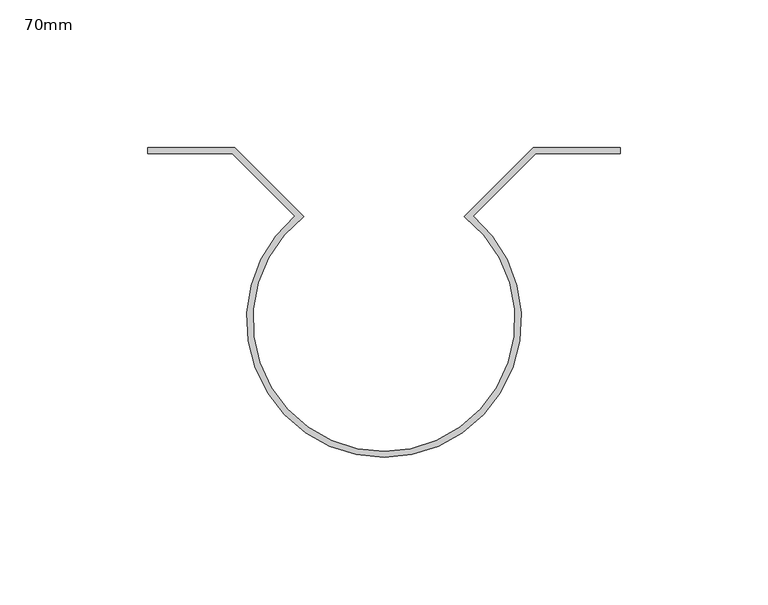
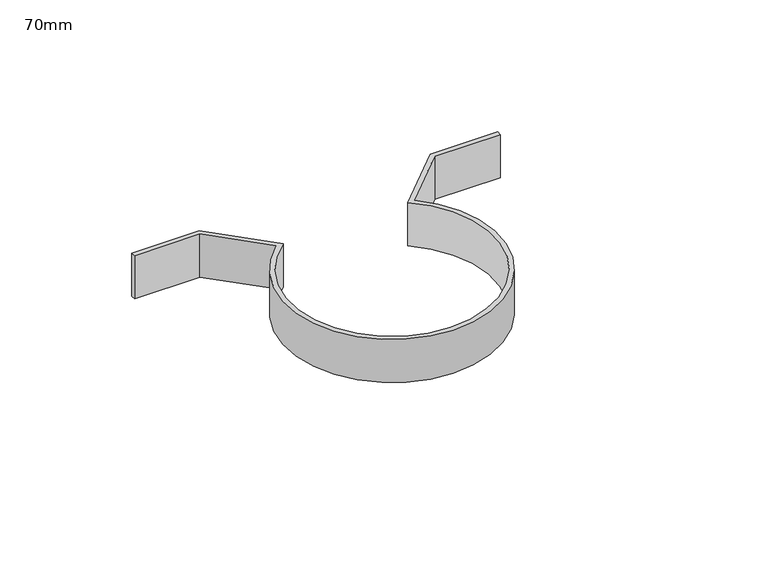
"""IFC4 building model written with IfcOpenShell, lengths in millimetres: pipe fitting geometry, AmancoWavin_Unionesdetubería_CanalesyBajantes_GazaBajanteRedondo : 70mm."""

import ifcopenshell
import ifcopenshell.guid

model = None  # the IFC model being written
_history = None  # IfcOwnerHistory: only IFC2X3 demands one
_inside = {}  # id of a spatial element -> (the spatial element, [elements in it])
_under = {}  # id of a project, library or spatial element -> (it, [spatial elements below it])
_declared = {}  # id of a project -> (the project, [libraries it declares])
_typed = {}  # id of a type object -> (the type object, [elements of that type])
_made_of = {}  # id of a material, layer set ... -> (it, [elements and type objects made of it])


def new_model(schema):
    """Start an empty IFC model of exactly this schema.

    Asked for "IFC4X3", IfcOpenShell would pick the latest addendum, in which some entities
    have other attributes; the version numbers below select the first issue.
    IFC2X3 requires an IfcOwnerHistory on every rooted entity: one is made here for all.
    """
    global model, _history
    if schema == "IFC4X3":
        model = ifcopenshell.file(schema_version=(4, 3, 0, 0))
    else:
        model = ifcopenshell.file(schema=schema)
    _inside.clear()
    _under.clear()
    _declared.clear()
    _typed.clear()
    _made_of.clear()
    _history = None
    if model.schema == "IFC2X3":
        org = make("IfcOrganization", Name="unknown")
        user = make(
            "IfcPersonAndOrganization",
            ThePerson=make("IfcPerson", FamilyName="unknown"),
            TheOrganization=org,
        )
        app = make(
            "IfcApplication",
            ApplicationDeveloper=org,
            Version="unknown",
            ApplicationFullName="unknown",
            ApplicationIdentifier="unknown",
        )
        _history = make(
            "IfcOwnerHistory",
            OwningUser=user,
            OwningApplication=app,
            ChangeAction="ADDED",
            CreationDate=0,
        )
    return model


def make(cls, **values):
    """One entity of the class cls with the attributes given. An attribute that is None is left unset."""
    return model.create_entity(
        cls, **{name: value for name, value in values.items() if value is not None}
    )


def rooted(cls, **values):
    """An entity with a GlobalId (a new one), such as an element, a storey or a relation."""
    return make(cls, GlobalId=ifcopenshell.guid.new(), OwnerHistory=_history, **values)


def si_unit(unit_type, name, prefix=None):
    """IfcSIUnit, for example si_unit("LENGTHUNIT", "METRE", prefix="MILLI")."""
    return make("IfcSIUnit", UnitType=unit_type, Prefix=prefix, Name=name)


def assignment(units):
    """IfcUnitAssignment: the units of a project."""
    return None if units is None else make("IfcUnitAssignment", Units=units)


def point(xyz):
    """IfcCartesianPoint."""
    return None if xyz is None else make("IfcCartesianPoint", Coordinates=xyz)


def direction(xyz):
    """IfcDirection."""
    return None if xyz is None else make("IfcDirection", DirectionRatios=xyz)


def frame(location, z_axis=None, x_axis=None):
    """IfcAxis2Placement3D, a coordinate frame: its origin and axes. An axis left out is left unset."""
    return make(
        "IfcAxis2Placement3D",
        Location=point(location),
        Axis=direction(z_axis),
        RefDirection=direction(x_axis),
    )


def frame_2d(location, x_axis=None):
    """IfcAxis2Placement2D, a coordinate frame in the plane: its origin and x axis."""
    return make(
        "IfcAxis2Placement2D", Location=point(location), RefDirection=direction(x_axis)
    )


def origin():
    """The frame at (0, 0, 0) with its axes left unset."""
    return frame((0.0, 0.0, 0.0))


def origin_with_axes():
    """The frame at (0, 0, 0) with the z axis (0, 0, 1) and the x axis (1, 0, 0) written out."""
    return frame((0.0, 0.0, 0.0), z_axis=(0.0, 0.0, 1.0), x_axis=(1.0, 0.0, 0.0))


def origin_2d():
    """The frame at (0, 0) in the plane with its x axis left unset."""
    return frame_2d((0.0, 0.0))


def place(relative_to, where):
    """IfcLocalPlacement: puts the frame where relative to a parent placement (None: the world)."""
    return make(
        "IfcLocalPlacement", PlacementRelTo=relative_to, RelativePlacement=where
    )


def context(
    kind, dimensions, precision=None, world=None, true_north=None, identifier=None
):
    """IfcGeometricRepresentationContext, for example the 3D "Model" context."""
    return make(
        "IfcGeometricRepresentationContext",
        ContextIdentifier=identifier,
        ContextType=kind,
        CoordinateSpaceDimension=dimensions,
        Precision=precision,
        WorldCoordinateSystem=world,
        TrueNorth=true_north,
    )


def project(units=None, contexts=None):
    """IfcProject with its units and contexts."""
    return rooted(
        "IfcProject",
        Name="project",
        RepresentationContexts=contexts,
        UnitsInContext=assignment(units),
    )


def spatial(cls, under=None, at=None, **own):
    """A site, building, storey or space (cls), placed at a placement, below another one or the project."""
    s = rooted(cls, ObjectPlacement=at, **own)
    if under is not None:
        _under.setdefault(under.id(), (under, []))[1].append(s)
    return s


def polyline(points):
    """IfcPolyline through the points."""
    return make("IfcPolyline", Points=[point(p) for p in points])


def circle_curve(where, radius):
    """IfcCircle in the frame where."""
    return make("IfcCircle", Position=where, Radius=radius)


def trimmed(basis, trim1, trim2, sense, master):
    """IfcTrimmedCurve: the piece of a basis curve between two trims."""
    return make(
        "IfcTrimmedCurve",
        BasisCurve=basis,
        Trim1=trim1,
        Trim2=trim2,
        SenseAgreement=sense,
        MasterRepresentation=master,
    )


def segment(curve, same_sense, transition):
    """IfcCompositeCurveSegment."""
    return make(
        "IfcCompositeCurveSegment",
        Transition=transition,
        SameSense=same_sense,
        ParentCurve=curve,
    )


def composite_curve(segments, self_intersect=None):
    """IfcCompositeCurve: segments joined end to end."""
    return make("IfcCompositeCurve", Segments=segments, SelfIntersect=self_intersect)


def outline(outer, holes=None, kind="AREA"):
    """IfcArbitraryClosedProfileDef: a profile drawn as a closed curve; with holes, ...WithVoids."""
    if holes is None:
        return make("IfcArbitraryClosedProfileDef", ProfileType=kind, OuterCurve=outer)
    return make(
        "IfcArbitraryProfileDefWithVoids",
        ProfileType=kind,
        OuterCurve=outer,
        InnerCurves=holes,
    )


def extrude(swept, where, along, depth):
    """IfcExtrudedAreaSolid: the profile swept, set in the frame where, extruded along a direction by depth."""
    return make(
        "IfcExtrudedAreaSolid",
        SweptArea=swept,
        Position=where,
        ExtrudedDirection=direction(along),
        Depth=depth,
    )


def shape(context_of_items, identifier, shape_type, items):
    """IfcShapeRepresentation: the items that make up one representation, for example the "Body"."""
    return make(
        "IfcShapeRepresentation",
        ContextOfItems=context_of_items,
        RepresentationIdentifier=identifier,
        RepresentationType=shape_type,
        Items=items,
    )


def source(mapping_origin, context_of_items, identifier, shape_type, items):
    """IfcRepresentationMap: a shape defined once, which mapped items show again and again."""
    return make(
        "IfcRepresentationMap",
        MappingOrigin=mapping_origin,
        MappedRepresentation=shape(context_of_items, identifier, shape_type, items),
    )


def transform(
    local_origin,
    x_axis=None,
    y_axis=None,
    z_axis=None,
    scale=None,
    scale2=None,
    scale3=None,
    uniform=True,
):
    """IfcCartesianTransformationOperator3D, or its non-uniform kind. x_axis, y_axis, z_axis: its Axis1, 2, 3."""
    if uniform:
        return make(
            "IfcCartesianTransformationOperator3D",
            Axis1=direction(x_axis),
            Axis2=direction(y_axis),
            LocalOrigin=point(local_origin),
            Scale=scale,
            Axis3=direction(z_axis),
        )
    return make(
        "IfcCartesianTransformationOperator3DnonUniform",
        Axis1=direction(x_axis),
        Axis2=direction(y_axis),
        LocalOrigin=point(local_origin),
        Scale=scale,
        Axis3=direction(z_axis),
        Scale2=scale2,
        Scale3=scale3,
    )


def mapped(mapping_source, mapping_target):
    """IfcMappedItem: shows the shape of a source again, moved by a transform."""
    return make(
        "IfcMappedItem", MappingSource=mapping_source, MappingTarget=mapping_target
    )


def made_of(thing, what):
    """Note that an element or type object is made of a material, layer set ...; save() writes the relation."""
    if what is not None:
        _made_of.setdefault(what.id(), (what, []))[1].append(thing)
    return thing


def element(
    cls,
    number,
    at=None,
    inside=None,
    cuts=None,
    type_object=None,
    material=None,
    context=None,
    identifier="Body",
    shape_type=None,
    held_by="IfcProductDefinitionShape",
    body=None,
    shapes=None,
    **own,
):
    """One element of the class cls, such as IfcWall. Its Tag is "e" and its number.

    at: its placement. inside: the storey or other place that contains it. cuts: it is an
    opening in that element (IfcRelVoidsElement). A single representation is given by context,
    identifier, shape_type and body (its items); several are given by shapes. held_by: the class
    of the entity that holds the representations. save() writes the other relations.
    """
    e = rooted(cls, Tag="e%d" % number, ObjectPlacement=at, **own)
    if body is not None:
        shapes = [shape(context, identifier, shape_type, body)]
    if shapes is not None:
        e.Representation = make(held_by, Representations=shapes)
    if inside is not None:
        _inside.setdefault(inside.id(), (inside, []))[1].append(e)
    if cuts is not None:
        rooted(
            "IfcRelVoidsElement", RelatingBuildingElement=cuts, RelatedOpeningElement=e
        )
    if type_object is not None:
        _typed.setdefault(type_object.id(), (type_object, []))[1].append(e)
    return made_of(e, material)


def aggregate(whole, parts):
    """IfcRelAggregates: a whole, such as a stair, and the parts it consists of."""
    return rooted("IfcRelAggregates", RelatingObject=whole, RelatedObjects=parts)


def save(model, path):
    """Write the relations noted so far, then the file.

    IfcRelAggregates (storeys below a building ...), IfcRelContainedInSpatialStructure (elements
    in a storey), IfcRelDefinesByType, IfcRelAssociatesMaterial and IfcRelDeclares: one each for
    every whole, place, type object, material and project.
    """
    for whole, parts in _under.values():
        aggregate(whole, parts)
    for where, things in _inside.values():
        rooted(
            "IfcRelContainedInSpatialStructure",
            RelatedElements=things,
            RelatingStructure=where,
        )
    for kind, things in _typed.values():
        rooted("IfcRelDefinesByType", RelatedObjects=things, RelatingType=kind)
    for what, things in _made_of.values():
        rooted("IfcRelAssociatesMaterial", RelatedObjects=things, RelatingMaterial=what)
    for by, libraries in _declared.values():
        rooted("IfcRelDeclares", RelatingContext=by, RelatedDefinitions=libraries)
    model.write(path)


def pipe_fitting_70mm_8c4ce1f1(model_context):
    return source(origin(), model_context, "Body", "SweptSolid", [
        extrude(outline(composite_curve([segment(polyline([(-51.3989958, 56.5178836), (-80.0, 56.5178836), (-80.0, 58.5130607), (-50.5705687, 58.5130607), (-27.2077606, 35.1502527)]), True, "CONTINUOUS"), segment(trimmed(circle_curve(origin_2d(), 44.45), [point((-27.2077606, 35.1502527))], [point((27.2077606, 35.1502527))], True, "CARTESIAN"), True, "CONTINUOUS"), segment(polyline([(27.2077606, 35.1502527), (50.5705687, 58.5130607), (80.0, 58.5130607), (80.0, 56.5178836), (51.3989958, 56.5178836), (30.1857924, 35.3046801)]), True, "CONTINUOUS"), segment(trimmed(circle_curve(origin_2d(), 46.45), [point((30.1857924, 35.3046801))], [point((-30.1857924, 35.3046801))], False, "CARTESIAN"), True, "CONTINUOUS"), segment(polyline([(-30.1857924, 35.3046801), (-51.3989958, 56.5178836)]), True, "CONTINUOUS")], self_intersect=False)), origin_with_axes(), (0.0, 0.0, 1.0), 20.0),
    ])


if __name__ == "__main__":
    model = new_model("IFC4")
    model_context = context("Model", 3, world=origin())
    ifc_project = project(units=[si_unit("LENGTHUNIT", "METRE", prefix="MILLI")], contexts=[model_context])
    site = spatial("IfcSite", under=ifc_project)
    building = spatial("IfcBuilding", under=site)
    placement = place(None, origin())
    pipe_fitting_70mm_shape = pipe_fitting_70mm_8c4ce1f1(model_context)
    element("IfcPipeFitting", 1, ObjectType="AmancoWavin_Unionesdetubería_CanalesyBajantes_GazaBajanteRedondo : 70mm", at=placement, inside=building, context=model_context, shape_type="MappedRepresentation", body=[
        mapped(pipe_fitting_70mm_shape, transform((0.0, 0.0, 0.0), x_axis=(1.0, 0.0, 0.0), y_axis=(0.0, 1.0, 0.0), z_axis=(0.0, 0.0, 1.0))),
    ])
    save(model, "model.ifc")
